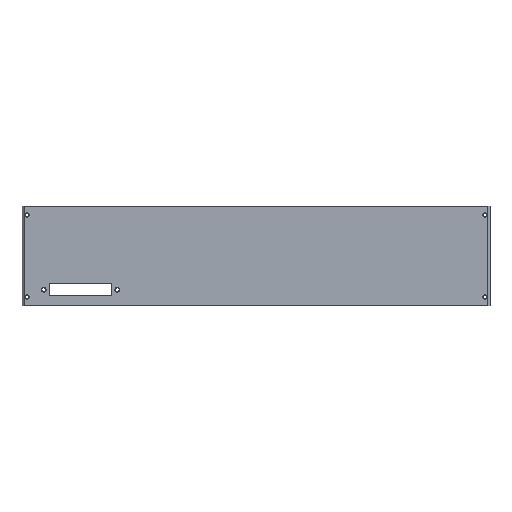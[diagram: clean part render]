
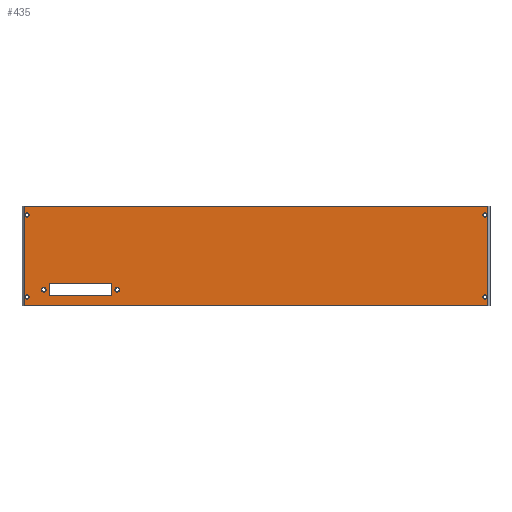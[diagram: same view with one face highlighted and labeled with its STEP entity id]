
A CAD part, top view. The second image highlights one B-rep face of the part: STEP entity #435.
In plain terms, the highlighted planar face has unit normal (0, 0, 1).
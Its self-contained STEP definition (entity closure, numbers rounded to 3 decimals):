
#13=DIRECTION('',(1.,0.,0.));
#14=VECTOR('',#13,186.);
#15=CARTESIAN_POINT('',(1.,0.,0.));
#16=LINE('',#15,#14);
#17=DIRECTION('',(1.,0.,0.));
#18=VECTOR('',#17,25.);
#19=CARTESIAN_POINT('',(11.,4.,0.));
#20=LINE('',#19,#18);
#21=DIRECTION('',(0.,1.,0.));
#22=VECTOR('',#21,5.);
#23=CARTESIAN_POINT('',(36.,4.,0.));
#24=LINE('',#23,#22);
#25=DIRECTION('',(-1.,0.,0.));
#26=VECTOR('',#25,25.);
#27=CARTESIAN_POINT('',(36.,9.,0.));
#28=LINE('',#27,#26);
#29=DIRECTION('',(0.,-1.,0.));
#30=VECTOR('',#29,5.);
#31=CARTESIAN_POINT('',(11.,9.,0.));
#32=LINE('',#31,#30);
#33=CARTESIAN_POINT('',(2.,36.5,0.));
#34=DIRECTION('',(0.,0.,1.));
#35=DIRECTION('',(-1.,0.,0.));
#36=AXIS2_PLACEMENT_3D('',#33,#34,#35);
#38=CARTESIAN_POINT('',(2.,36.5,0.));
#39=DIRECTION('',(0.,0.,1.));
#40=DIRECTION('',(1.,0.,0.));
#41=AXIS2_PLACEMENT_3D('',#38,#39,#40);
#43=CARTESIAN_POINT('',(2.,3.5,0.));
#44=DIRECTION('',(0.,0.,1.));
#45=DIRECTION('',(-1.,0.,0.));
#46=AXIS2_PLACEMENT_3D('',#43,#44,#45);
#48=CARTESIAN_POINT('',(2.,3.5,0.));
#49=DIRECTION('',(0.,0.,1.));
#50=DIRECTION('',(1.,0.,0.));
#51=AXIS2_PLACEMENT_3D('',#48,#49,#50);
#53=CARTESIAN_POINT('',(186.,36.5,0.));
#54=DIRECTION('',(0.,0.,1.));
#55=DIRECTION('',(-1.,0.,0.));
#56=AXIS2_PLACEMENT_3D('',#53,#54,#55);
#58=CARTESIAN_POINT('',(186.,36.5,0.));
#59=DIRECTION('',(0.,0.,1.));
#60=DIRECTION('',(1.,0.,0.));
#61=AXIS2_PLACEMENT_3D('',#58,#59,#60);
#63=CARTESIAN_POINT('',(186.,3.5,0.));
#64=DIRECTION('',(0.,0.,1.));
#65=DIRECTION('',(-1.,0.,0.));
#66=AXIS2_PLACEMENT_3D('',#63,#64,#65);
#68=CARTESIAN_POINT('',(186.,3.5,0.));
#69=DIRECTION('',(0.,0.,1.));
#70=DIRECTION('',(1.,0.,0.));
#71=AXIS2_PLACEMENT_3D('',#68,#69,#70);
#73=DIRECTION('',(0.,-1.,0.));
#74=VECTOR('',#73,40.);
#75=CARTESIAN_POINT('',(187.,40.,0.));
#76=LINE('',#75,#74);
#77=DIRECTION('',(0.,-1.,0.));
#78=VECTOR('',#77,40.);
#79=CARTESIAN_POINT('',(1.,40.,0.));
#80=LINE('',#79,#78);
#81=CARTESIAN_POINT('',(8.7,6.5,0.));
#82=DIRECTION('',(0.,0.,-1.));
#83=DIRECTION('',(1.,0.,0.));
#84=AXIS2_PLACEMENT_3D('',#81,#82,#83);
#86=CARTESIAN_POINT('',(8.7,6.5,0.));
#87=DIRECTION('',(0.,0.,-1.));
#88=DIRECTION('',(-1.,0.,0.));
#89=AXIS2_PLACEMENT_3D('',#86,#87,#88);
#91=CARTESIAN_POINT('',(38.3,6.5,0.));
#92=DIRECTION('',(0.,0.,1.));
#93=DIRECTION('',(-1.,0.,0.));
#94=AXIS2_PLACEMENT_3D('',#91,#92,#93);
#96=CARTESIAN_POINT('',(38.3,6.5,0.));
#97=DIRECTION('',(0.,0.,1.));
#98=DIRECTION('',(1.,0.,0.));
#99=AXIS2_PLACEMENT_3D('',#96,#97,#98);
#237=DIRECTION('',(1.,0.,0.));
#238=VECTOR('',#237,186.);
#239=CARTESIAN_POINT('',(1.,40.,0.));
#240=LINE('',#239,#238);
#265=CARTESIAN_POINT('',(11.,4.,0.));
#266=CARTESIAN_POINT('',(36.,4.,0.));
#267=VERTEX_POINT('',#265);
#268=VERTEX_POINT('',#266);
#269=CARTESIAN_POINT('',(36.,9.,0.));
#270=VERTEX_POINT('',#269);
#271=CARTESIAN_POINT('',(11.,9.,0.));
#272=VERTEX_POINT('',#271);
#282=CARTESIAN_POINT('',(1.35,36.5,0.));
#284=VERTEX_POINT('',#282);
#286=CARTESIAN_POINT('',(2.65,36.5,0.));
#288=VERTEX_POINT('',#286);
#290=CARTESIAN_POINT('',(1.35,3.5,0.));
#292=VERTEX_POINT('',#290);
#294=CARTESIAN_POINT('',(2.65,3.5,0.));
#296=VERTEX_POINT('',#294);
#298=CARTESIAN_POINT('',(185.35,36.5,0.));
#300=VERTEX_POINT('',#298);
#302=CARTESIAN_POINT('',(186.65,36.5,0.));
#304=VERTEX_POINT('',#302);
#306=CARTESIAN_POINT('',(185.35,3.5,0.));
#308=VERTEX_POINT('',#306);
#310=CARTESIAN_POINT('',(186.65,3.5,0.));
#312=VERTEX_POINT('',#310);
#313=CARTESIAN_POINT('',(1.,0.,0.));
#315=VERTEX_POINT('',#313);
#319=CARTESIAN_POINT('',(1.,40.,0.));
#320=VERTEX_POINT('',#319);
#322=CARTESIAN_POINT('',(187.,0.,0.));
#324=VERTEX_POINT('',#322);
#325=CARTESIAN_POINT('',(187.,40.,0.));
#326=VERTEX_POINT('',#325);
#329=CARTESIAN_POINT('',(9.5,6.5,0.));
#330=CARTESIAN_POINT('',(7.9,6.5,0.));
#331=VERTEX_POINT('',#329);
#332=VERTEX_POINT('',#330);
#337=CARTESIAN_POINT('',(37.5,6.5,0.));
#339=VERTEX_POINT('',#337);
#341=CARTESIAN_POINT('',(39.1,6.5,0.));
#343=VERTEX_POINT('',#341);
#376=CARTESIAN_POINT('',(0.,0.,0.));
#377=DIRECTION('',(0.,0.,1.));
#378=DIRECTION('',(1.,0.,0.));
#379=AXIS2_PLACEMENT_3D('',#376,#377,#378);
#380=PLANE('',#379);
#381=ORIENTED_EDGE('',*,*,#367,.T.);
#382=ORIENTED_EDGE('',*,*,#356,.F.);
#384=ORIENTED_EDGE('',*,*,#383,.F.);
#386=ORIENTED_EDGE('',*,*,#385,.T.);
#387=EDGE_LOOP('',(#381,#382,#384,#386));
#388=FACE_OUTER_BOUND('',#387,.F.);
#390=ORIENTED_EDGE('',*,*,#389,.T.);
#392=ORIENTED_EDGE('',*,*,#391,.T.);
#393=EDGE_LOOP('',(#390,#392));
#394=FACE_BOUND('',#393,.F.);
#396=ORIENTED_EDGE('',*,*,#395,.T.);
#398=ORIENTED_EDGE('',*,*,#397,.T.);
#399=EDGE_LOOP('',(#396,#398));
#400=FACE_BOUND('',#399,.F.);
#402=ORIENTED_EDGE('',*,*,#401,.T.);
#404=ORIENTED_EDGE('',*,*,#403,.T.);
#405=EDGE_LOOP('',(#402,#404));
#406=FACE_BOUND('',#405,.F.);
#408=ORIENTED_EDGE('',*,*,#407,.T.);
#410=ORIENTED_EDGE('',*,*,#409,.T.);
#411=EDGE_LOOP('',(#408,#410));
#412=FACE_BOUND('',#411,.F.);
#414=ORIENTED_EDGE('',*,*,#413,.T.);
#416=ORIENTED_EDGE('',*,*,#415,.T.);
#418=ORIENTED_EDGE('',*,*,#417,.T.);
#420=ORIENTED_EDGE('',*,*,#419,.T.);
#421=EDGE_LOOP('',(#414,#416,#418,#420));
#422=FACE_BOUND('',#421,.F.);
#424=ORIENTED_EDGE('',*,*,#423,.F.);
#426=ORIENTED_EDGE('',*,*,#425,.F.);
#427=EDGE_LOOP('',(#424,#426));
#428=FACE_BOUND('',#427,.F.);
#430=ORIENTED_EDGE('',*,*,#429,.T.);
#432=ORIENTED_EDGE('',*,*,#431,.T.);
#433=EDGE_LOOP('',(#430,#432));
#434=FACE_BOUND('',#433,.F.);
#435=ADVANCED_FACE('',(#388,#394,#400,#406,#412,#422,#428,#434),#380,.T.);
#37=CIRCLE('',#36,0.65);
#42=CIRCLE('',#41,0.65);
#47=CIRCLE('',#46,0.65);
#52=CIRCLE('',#51,0.65);
#57=CIRCLE('',#56,0.65);
#62=CIRCLE('',#61,0.65);
#67=CIRCLE('',#66,0.65);
#72=CIRCLE('',#71,0.65);
#85=CIRCLE('',#84,0.8);
#90=CIRCLE('',#89,0.8);
#95=CIRCLE('',#94,0.8);
#100=CIRCLE('',#99,0.8);
#356=EDGE_CURVE('',#315,#324,#16,.T.);
#367=EDGE_CURVE('',#326,#324,#76,.T.);
#383=EDGE_CURVE('',#320,#315,#80,.T.);
#385=EDGE_CURVE('',#320,#326,#240,.T.);
#389=EDGE_CURVE('',#284,#288,#37,.T.);
#391=EDGE_CURVE('',#288,#284,#42,.T.);
#395=EDGE_CURVE('',#292,#296,#47,.T.);
#397=EDGE_CURVE('',#296,#292,#52,.T.);
#401=EDGE_CURVE('',#300,#304,#57,.T.);
#403=EDGE_CURVE('',#304,#300,#62,.T.);
#407=EDGE_CURVE('',#308,#312,#67,.T.);
#409=EDGE_CURVE('',#312,#308,#72,.T.);
#413=EDGE_CURVE('',#267,#268,#20,.T.);
#415=EDGE_CURVE('',#268,#270,#24,.T.);
#417=EDGE_CURVE('',#270,#272,#28,.T.);
#419=EDGE_CURVE('',#272,#267,#32,.T.);
#423=EDGE_CURVE('',#331,#332,#85,.T.);
#425=EDGE_CURVE('',#332,#331,#90,.T.);
#429=EDGE_CURVE('',#339,#343,#95,.T.);
#431=EDGE_CURVE('',#343,#339,#100,.T.);
